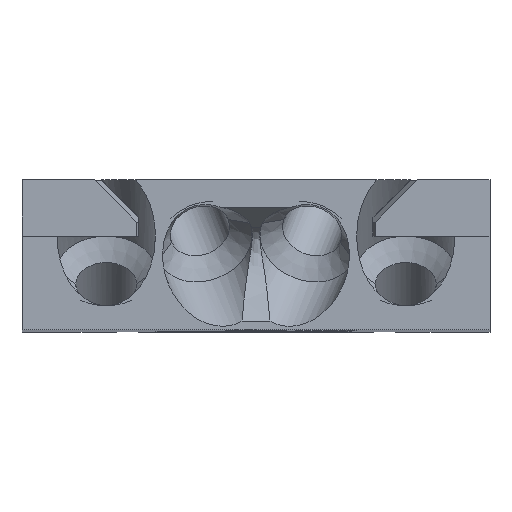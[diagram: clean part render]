
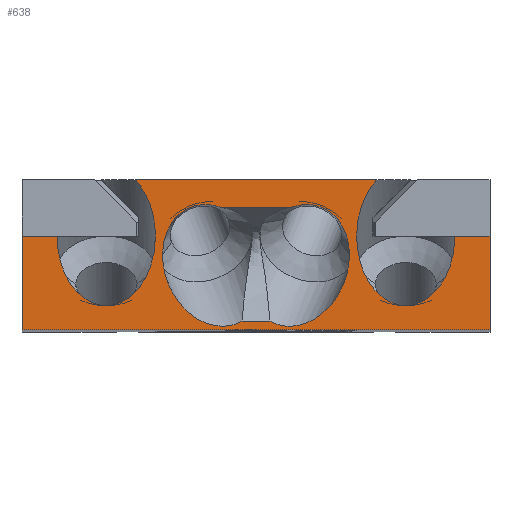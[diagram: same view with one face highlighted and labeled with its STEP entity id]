
A CAD part, top view. The second image highlights one B-rep face of the part: STEP entity #638.
In plain terms, the highlighted planar face has unit normal (0, 0, 1).
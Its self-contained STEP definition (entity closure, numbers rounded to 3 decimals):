
#638=ADVANCED_FACE('',(#1366,#1367),#1368,.T.);
#1366=FACE_OUTER_BOUND('',#2145,.T.);
#1367=FACE_BOUND('',#2146,.T.);
#1368=PLANE('',#2147);
#2145=EDGE_LOOP('',(#4032,#4033,#4034,#4035,#4036,#4037,#4038,#4039,#4040,#4041,#4042,#4043));
#2146=EDGE_LOOP('',(#4044,#4045,#4046,#4047,#4048,#4049));
#2147=AXIS2_PLACEMENT_3D('',#4050,#4051,#4052);
#4032=ORIENTED_EDGE('',*,*,#5247,.T.);
#4033=ORIENTED_EDGE('',*,*,#5009,.T.);
#4034=ORIENTED_EDGE('',*,*,#4919,.T.);
#4035=ORIENTED_EDGE('',*,*,#5226,.F.);
#4036=ORIENTED_EDGE('',*,*,#5202,.F.);
#4037=ORIENTED_EDGE('',*,*,#5189,.F.);
#4038=ORIENTED_EDGE('',*,*,#5220,.T.);
#4039=ORIENTED_EDGE('',*,*,#5236,.T.);
#4040=ORIENTED_EDGE('',*,*,#4862,.T.);
#4041=ORIENTED_EDGE('',*,*,#5012,.T.);
#4042=ORIENTED_EDGE('',*,*,#5248,.T.);
#4043=ORIENTED_EDGE('',*,*,#5249,.T.);
#4044=ORIENTED_EDGE('',*,*,#5250,.T.);
#4045=ORIENTED_EDGE('',*,*,#4857,.T.);
#4046=ORIENTED_EDGE('',*,*,#5251,.F.);
#4047=ORIENTED_EDGE('',*,*,#5252,.T.);
#4048=ORIENTED_EDGE('',*,*,#4851,.T.);
#4049=ORIENTED_EDGE('',*,*,#5253,.F.);
#4050=CARTESIAN_POINT('',(-25.0,0.,0.));
#4051=DIRECTION('',(0.,0.,1.0));
#4052=DIRECTION('',(1.0,0.,0.));
#4851=EDGE_CURVE('',#5834,#5832,#5835,.T.);
#4857=EDGE_CURVE('',#5843,#5841,#5844,.T.);
#4862=EDGE_CURVE('',#5848,#5850,#5852,.T.);
#4919=EDGE_CURVE('',#5936,#5940,#5942,.T.);
#5009=EDGE_CURVE('',#6080,#5936,#6082,.T.);
#5012=EDGE_CURVE('',#5850,#6084,#6086,.T.);
#5189=EDGE_CURVE('',#6351,#6328,#6353,.T.);
#5202=EDGE_CURVE('',#6328,#6370,#6371,.T.);
#5220=EDGE_CURVE('',#6351,#6395,#6397,.T.);
#5226=EDGE_CURVE('',#6370,#5940,#6404,.T.);
#5236=EDGE_CURVE('',#6395,#5848,#6421,.T.);
#5247=EDGE_CURVE('',#6433,#6080,#6434,.T.);
#5248=EDGE_CURVE('',#6084,#6435,#6436,.T.);
#5249=EDGE_CURVE('',#6435,#6433,#6437,.T.);
#5250=EDGE_CURVE('',#6438,#5843,#6439,.T.);
#5251=EDGE_CURVE('',#6440,#5841,#6441,.T.);
#5252=EDGE_CURVE('',#6440,#5834,#6442,.T.);
#5253=EDGE_CURVE('',#6438,#5832,#6443,.T.);
#5832=VERTEX_POINT('',#7178);
#5834=VERTEX_POINT('',#7188);
#5835=ELLIPSE('',#7189,6.684,5.25);
#5841=VERTEX_POINT('',#7197);
#5843=VERTEX_POINT('',#7211);
#5844=ELLIPSE('',#7212,6.684,5.25);
#5848=VERTEX_POINT('',#7217);
#5850=VERTEX_POINT('',#7220);
#5852=ELLIPSE('',#7222,7.425,5.25);
#5936=VERTEX_POINT('',#7326);
#5940=VERTEX_POINT('',#7330);
#5942=ELLIPSE('',#7333,7.425,5.25);
#6080=VERTEX_POINT('',#7503);
#6082=ELLIPSE('',#7506,7.425,5.25);
#6084=VERTEX_POINT('',#7508);
#6086=ELLIPSE('',#7511,7.425,5.25);
#6328=VERTEX_POINT('',#7821);
#6351=VERTEX_POINT('',#7853);
#6353=LINE('',#7856,#7857);
#6370=VERTEX_POINT('',#7880);
#6371=LINE('',#7881,#7882);
#6395=VERTEX_POINT('',#7917);
#6397=LINE('',#7920,#7921);
#6404=LINE('',#7931,#7932);
#6421=LINE('',#7953,#7954);
#6433=VERTEX_POINT('',#7967);
#6434=ELLIPSE('',#7968,7.425,5.25);
#6435=VERTEX_POINT('',#7969);
#6436=ELLIPSE('',#7970,7.425,5.25);
#6437=LINE('',#7971,#7972);
#6438=VERTEX_POINT('',#7973);
#6439=ELLIPSE('',#7974,6.684,5.25);
#6440=VERTEX_POINT('',#7975);
#6441=B_SPLINE_CURVE_WITH_KNOTS('',3,(#7976,#7977,#7978,#7979),.UNSPECIFIED.,.F.,.F.,(4,4),(-0.282,0.479),.UNSPECIFIED.);
#6442=ELLIPSE('',#7980,6.684,5.25);
#6443=B_SPLINE_CURVE_WITH_KNOTS('',3,(#7981,#7982,#7983,#7984,#7985,#7986),.UNSPECIFIED.,.F.,.F.,(4,2,4),(0.0,0.149,0.297),.UNSPECIFIED.);
#7178=CARTESIAN_POINT('',(1.485,0.922,0.));
#7188=CARTESIAN_POINT('',(9.365,4.898,0.));
#7189=AXIS2_PLACEMENT_3D('',#8603,#8604,#8605);
#7197=CARTESIAN_POINT('',(-3.805,13.09,0.));
#7211=CARTESIAN_POINT('',(-9.365,4.898,0.));
#7212=AXIS2_PLACEMENT_3D('',#8611,#8612,#8613);
#7217=CARTESIAN_POINT('',(21.25,10.0,0.));
#7220=CARTESIAN_POINT('',(16.0,2.575,0.));
#7222=AXIS2_PLACEMENT_3D('',#8619,#8620,#8621);
#7326=CARTESIAN_POINT('',(-16.0,2.575,0.0));
#7330=CARTESIAN_POINT('',(-21.25,10.,0.0));
#7333=AXIS2_PLACEMENT_3D('',#8709,#8710,#8711);
#7503=CARTESIAN_POINT('',(-10.75,10.0,0.));
#7506=AXIS2_PLACEMENT_3D('',#8850,#8851,#8852);
#7508=CARTESIAN_POINT('',(10.75,10.0,0.));
#7511=AXIS2_PLACEMENT_3D('',#8854,#8855,#8856);
#7821=CARTESIAN_POINT('',(-25.0,0.,0.));
#7853=CARTESIAN_POINT('',(25.0,0.,0.));
#7856=CARTESIAN_POINT('',(25.0,0.,0.));
#7857=VECTOR('',#9109,10.0);
#7880=CARTESIAN_POINT('',(-25.0,10.,0.));
#7881=CARTESIAN_POINT('',(-25.0,0.,0.));
#7882=VECTOR('',#9119,10.0);
#7917=CARTESIAN_POINT('',(25.0,10.0,0.));
#7920=CARTESIAN_POINT('',(25.0,0.,0.));
#7921=VECTOR('',#9132,10.0);
#7931=CARTESIAN_POINT('',(-12.5,10.,0.0));
#7932=VECTOR('',#9136,10.0);
#7953=CARTESIAN_POINT('',(-12.5,10.,0.0));
#7954=VECTOR('',#9156,10.0);
#7967=CARTESIAN_POINT('',(-12.908,16.0,0.0));
#7968=AXIS2_PLACEMENT_3D('',#9182,#9183,#9184);
#7969=CARTESIAN_POINT('',(12.908,16.0,0.));
#7970=AXIS2_PLACEMENT_3D('',#9185,#9186,#9187);
#7971=CARTESIAN_POINT('',(-15.293,16.0,0.));
#7972=VECTOR('',#9188,10.0);
#7973=CARTESIAN_POINT('',(-1.485,0.922,0.));
#7974=AXIS2_PLACEMENT_3D('',#9189,#9190,#9191);
#7975=CARTESIAN_POINT('',(3.805,13.09,0.));
#7976=CARTESIAN_POINT('',(3.805,13.09,0.));
#7977=CARTESIAN_POINT('',(1.268,13.09,0.));
#7978=CARTESIAN_POINT('',(-1.268,13.09,0.));
#7979=CARTESIAN_POINT('',(-3.805,13.09,0.));
#7980=AXIS2_PLACEMENT_3D('',#9192,#9193,#9194);
#7981=CARTESIAN_POINT('',(-1.485,0.922,0.));
#7982=CARTESIAN_POINT('',(-0.99,0.922,0.));
#7983=CARTESIAN_POINT('',(-0.495,0.922,0.));
#7984=CARTESIAN_POINT('',(0.495,0.922,0.));
#7985=CARTESIAN_POINT('',(0.99,0.922,0.));
#7986=CARTESIAN_POINT('',(1.485,0.922,0.));
#8603=CARTESIAN_POINT('',(4.5,6.871,0.));
#8604=DIRECTION('',(0.,0.,-1.0));
#8605=DIRECTION('',(0.376,0.927,0.));
#8611=CARTESIAN_POINT('',(-4.5,6.871,0.));
#8612=DIRECTION('',(0.,0.,-1.0));
#8613=DIRECTION('',(-0.376,0.927,0.));
#8619=CARTESIAN_POINT('',(16.0,10.0,0.));
#8620=DIRECTION('',(0.,0.,-1.0));
#8621=DIRECTION('',(0.,-1.0,0.));
#8709=CARTESIAN_POINT('',(-16.0,10.0,0.0));
#8710=DIRECTION('',(0.,0.,-1.0));
#8711=DIRECTION('',(0.,-1.0,0.));
#8850=CARTESIAN_POINT('',(-16.0,10.0,0.0));
#8851=DIRECTION('',(0.,0.,-1.0));
#8852=DIRECTION('',(0.,-1.0,0.));
#8854=CARTESIAN_POINT('',(16.0,10.0,0.));
#8855=DIRECTION('',(0.,0.,-1.0));
#8856=DIRECTION('',(0.,-1.0,0.));
#9109=DIRECTION('',(-1.0,0.,0.));
#9119=DIRECTION('',(0.,1.0,0.));
#9132=DIRECTION('',(0.,1.0,0.));
#9136=DIRECTION('',(1.0,0.,0.));
#9156=DIRECTION('',(-1.0,0.,0.));
#9182=CARTESIAN_POINT('',(-16.0,10.0,0.0));
#9183=DIRECTION('',(0.,0.,-1.0));
#9184=DIRECTION('',(0.,-1.0,0.));
#9185=CARTESIAN_POINT('',(16.0,10.0,0.));
#9186=DIRECTION('',(0.,0.,-1.0));
#9187=DIRECTION('',(0.,-1.0,0.));
#9188=DIRECTION('',(-1.0,0.,0.));
#9189=CARTESIAN_POINT('',(-4.5,6.871,0.));
#9190=DIRECTION('',(0.,0.,-1.0));
#9191=DIRECTION('',(-0.376,0.927,0.));
#9192=CARTESIAN_POINT('',(4.5,6.871,0.));
#9193=DIRECTION('',(0.,0.,-1.0));
#9194=DIRECTION('',(0.376,0.927,0.));
